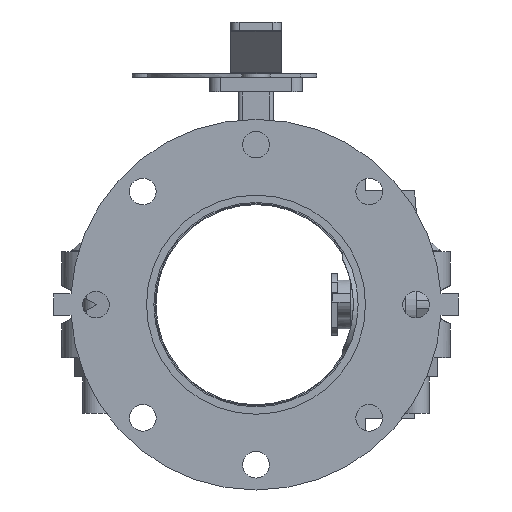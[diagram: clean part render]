
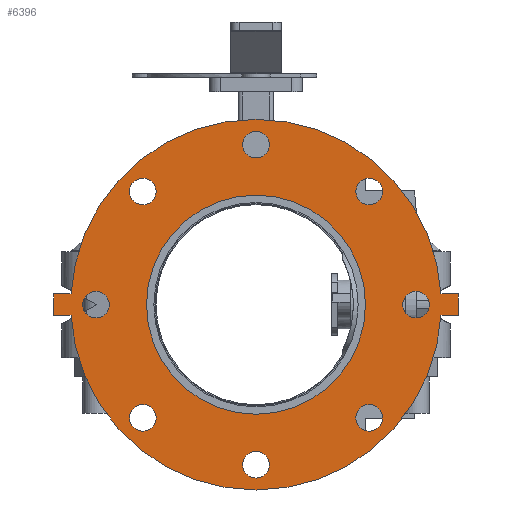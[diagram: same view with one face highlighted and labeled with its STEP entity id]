
A CAD part, front view. The second image highlights one B-rep face of the part: STEP entity #6396.
In plain terms, the highlighted planar face has unit normal (0, -1, 0) as drawn and (0, 0, -1) by its records, which use the part's own axes.
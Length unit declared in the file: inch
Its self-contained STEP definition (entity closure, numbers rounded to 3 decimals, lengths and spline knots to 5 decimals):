
#146=FACE_BOUND('',#793,.T.);
#147=FACE_BOUND('',#794,.T.);
#148=FACE_BOUND('',#795,.T.);
#149=FACE_BOUND('',#796,.T.);
#150=FACE_BOUND('',#797,.T.);
#151=FACE_BOUND('',#798,.T.);
#152=FACE_BOUND('',#799,.T.);
#153=FACE_BOUND('',#800,.T.);
#154=FACE_BOUND('',#801,.T.);
#225=PLANE('',#6918);
#437=FACE_OUTER_BOUND('',#792,.T.);
#792=EDGE_LOOP('',(#4161,#4162,#4163,#4164,#4165,#4166,#4167,#4168));
#793=EDGE_LOOP('',(#4169));
#794=EDGE_LOOP('',(#4170));
#795=EDGE_LOOP('',(#4171));
#796=EDGE_LOOP('',(#4172));
#797=EDGE_LOOP('',(#4173));
#798=EDGE_LOOP('',(#4174));
#799=EDGE_LOOP('',(#4175));
#800=EDGE_LOOP('',(#4176));
#801=EDGE_LOOP('',(#4177));
#1205=LINE('',#9653,#1710);
#1208=LINE('',#9659,#1713);
#1211=LINE('',#9664,#1716);
#1213=LINE('',#9669,#1718);
#1217=LINE('',#9676,#1722);
#1219=LINE('',#9679,#1724);
#1710=VECTOR('',#7693,0.3937);
#1713=VECTOR('',#7698,0.3937);
#1716=VECTOR('',#7703,0.3937);
#1718=VECTOR('',#7707,0.3937);
#1722=VECTOR('',#7713,0.3937);
#1724=VECTOR('',#7717,0.3937);
#2203=CIRCLE('',#6880,0.395);
#2205=CIRCLE('',#6883,0.395);
#2207=CIRCLE('',#6886,0.395);
#2209=CIRCLE('',#6889,0.395);
#2211=CIRCLE('',#6892,0.395);
#2213=CIRCLE('',#6895,0.395);
#2215=CIRCLE('',#6898,0.395);
#2217=CIRCLE('',#6901,0.395);
#2218=CIRCLE('',#6903,3.25);
#2220=CIRCLE('',#6906,5.5);
#2223=CIRCLE('',#6910,5.5);
#2554=VERTEX_POINT('',#9582);
#2556=VERTEX_POINT('',#9588);
#2558=VERTEX_POINT('',#9594);
#2560=VERTEX_POINT('',#9600);
#2562=VERTEX_POINT('',#9606);
#2564=VERTEX_POINT('',#9612);
#2566=VERTEX_POINT('',#9618);
#2568=VERTEX_POINT('',#9624);
#2569=VERTEX_POINT('',#9628);
#2571=VERTEX_POINT('',#9634);
#2573=VERTEX_POINT('',#9637);
#2575=VERTEX_POINT('',#9643);
#2578=VERTEX_POINT('',#9648);
#2579=VERTEX_POINT('',#9652);
#2581=VERTEX_POINT('',#9658);
#2583=VERTEX_POINT('',#9667);
#2584=VERTEX_POINT('',#9668);
#3166=EDGE_CURVE('',#2554,#2554,#2203,.T.);
#3169=EDGE_CURVE('',#2556,#2556,#2205,.T.);
#3172=EDGE_CURVE('',#2558,#2558,#2207,.T.);
#3175=EDGE_CURVE('',#2560,#2560,#2209,.T.);
#3178=EDGE_CURVE('',#2562,#2562,#2211,.T.);
#3181=EDGE_CURVE('',#2564,#2564,#2213,.T.);
#3184=EDGE_CURVE('',#2566,#2566,#2215,.T.);
#3187=EDGE_CURVE('',#2568,#2568,#2217,.T.);
#3188=EDGE_CURVE('',#2569,#2569,#2218,.T.);
#3192=EDGE_CURVE('',#2571,#2573,#2220,.T.);
#3198=EDGE_CURVE('',#2578,#2575,#2223,.T.);
#3199=EDGE_CURVE('',#2573,#2579,#1205,.T.);
#3202=EDGE_CURVE('',#2581,#2578,#1208,.T.);
#3205=EDGE_CURVE('',#2579,#2581,#1211,.T.);
#3207=EDGE_CURVE('',#2583,#2584,#1213,.T.);
#3211=EDGE_CURVE('',#2575,#2583,#1217,.T.);
#3213=EDGE_CURVE('',#2584,#2571,#1219,.T.);
#4161=ORIENTED_EDGE('',*,*,#3213,.F.);
#4162=ORIENTED_EDGE('',*,*,#3207,.F.);
#4163=ORIENTED_EDGE('',*,*,#3211,.F.);
#4164=ORIENTED_EDGE('',*,*,#3198,.F.);
#4165=ORIENTED_EDGE('',*,*,#3202,.F.);
#4166=ORIENTED_EDGE('',*,*,#3205,.F.);
#4167=ORIENTED_EDGE('',*,*,#3199,.F.);
#4168=ORIENTED_EDGE('',*,*,#3192,.F.);
#4169=ORIENTED_EDGE('',*,*,#3166,.T.);
#4170=ORIENTED_EDGE('',*,*,#3169,.T.);
#4171=ORIENTED_EDGE('',*,*,#3172,.T.);
#4172=ORIENTED_EDGE('',*,*,#3175,.T.);
#4173=ORIENTED_EDGE('',*,*,#3178,.T.);
#4174=ORIENTED_EDGE('',*,*,#3181,.T.);
#4175=ORIENTED_EDGE('',*,*,#3184,.T.);
#4176=ORIENTED_EDGE('',*,*,#3187,.T.);
#4177=ORIENTED_EDGE('',*,*,#3188,.T.);
#6396=ADVANCED_FACE('',(#437,#146,#147,#148,#149,#150,#151,#152,#153,#154),
#225,.F.);
#6880=AXIS2_PLACEMENT_3D('',#9584,#7617,#7618);
#6883=AXIS2_PLACEMENT_3D('',#9590,#7624,#7625);
#6886=AXIS2_PLACEMENT_3D('',#9596,#7631,#7632);
#6889=AXIS2_PLACEMENT_3D('',#9602,#7638,#7639);
#6892=AXIS2_PLACEMENT_3D('',#9608,#7645,#7646);
#6895=AXIS2_PLACEMENT_3D('',#9614,#7652,#7653);
#6898=AXIS2_PLACEMENT_3D('',#9620,#7659,#7660);
#6901=AXIS2_PLACEMENT_3D('',#9626,#7666,#7667);
#6903=AXIS2_PLACEMENT_3D('',#9629,#7670,#7671);
#6906=AXIS2_PLACEMENT_3D('',#9638,#7678,#7679);
#6910=AXIS2_PLACEMENT_3D('',#9650,#7689,#7690);
#6918=AXIS2_PLACEMENT_3D('',#9682,#7721,#7722);
#7617=DIRECTION('center_axis',(0.,0.,1.));
#7618=DIRECTION('ref_axis',(-0.707,-0.707,0.));
#7624=DIRECTION('center_axis',(0.,0.,1.));
#7625=DIRECTION('ref_axis',(-1.,0.,0.));
#7631=DIRECTION('center_axis',(0.,0.,1.));
#7632=DIRECTION('ref_axis',(-0.707,0.707,0.));
#7638=DIRECTION('center_axis',(0.,0.,1.));
#7639=DIRECTION('ref_axis',(0.,1.,0.));
#7645=DIRECTION('center_axis',(0.,0.,1.));
#7646=DIRECTION('ref_axis',(0.707,0.707,0.));
#7652=DIRECTION('center_axis',(0.,0.,1.));
#7653=DIRECTION('ref_axis',(1.,0.,0.));
#7659=DIRECTION('center_axis',(0.,0.,1.));
#7660=DIRECTION('ref_axis',(0.707,-0.707,0.));
#7666=DIRECTION('center_axis',(0.,0.,1.));
#7667=DIRECTION('ref_axis',(0.,-1.,0.));
#7670=DIRECTION('center_axis',(0.,0.,1.));
#7671=DIRECTION('ref_axis',(0.,-1.,0.));
#7678=DIRECTION('center_axis',(0.,0.,1.));
#7679=DIRECTION('ref_axis',(0.,1.,0.));
#7689=DIRECTION('center_axis',(0.,0.,1.));
#7690=DIRECTION('ref_axis',(0.,1.,0.));
#7693=DIRECTION('',(0.,-1.,0.));
#7698=DIRECTION('',(0.,1.,0.));
#7703=DIRECTION('',(1.,0.,0.));
#7707=DIRECTION('',(-1.,0.,0.));
#7713=DIRECTION('',(0.,1.,0.));
#7717=DIRECTION('',(0.,-1.,0.));
#7721=DIRECTION('center_axis',(0.,0.,1.));
#7722=DIRECTION('ref_axis',(0.,1.,0.));
#9582=CARTESIAN_POINT('',(-3.07945,3.63806,0.));
#9584=CARTESIAN_POINT('Origin',(-3.35876,3.35876,0.));
#9588=CARTESIAN_POINT('',(0.395,4.75,0.));
#9590=CARTESIAN_POINT('Origin',(0.,4.75,0.));
#9594=CARTESIAN_POINT('',(3.63806,3.07945,0.));
#9596=CARTESIAN_POINT('Origin',(3.35876,3.35876,0.));
#9600=CARTESIAN_POINT('',(4.75,-0.395,0.));
#9602=CARTESIAN_POINT('Origin',(4.75,0.,0.));
#9606=CARTESIAN_POINT('',(3.07945,-3.63806,0.));
#9608=CARTESIAN_POINT('Origin',(3.35876,-3.35876,0.));
#9612=CARTESIAN_POINT('',(-0.395,-4.75,0.));
#9614=CARTESIAN_POINT('Origin',(0.,-4.75,0.));
#9618=CARTESIAN_POINT('',(-3.63806,-3.07945,0.));
#9620=CARTESIAN_POINT('Origin',(-3.35876,-3.35876,0.));
#9624=CARTESIAN_POINT('',(-4.75,0.395,0.));
#9626=CARTESIAN_POINT('Origin',(-4.75,0.,0.));
#9628=CARTESIAN_POINT('',(0.,3.25,0.));
#9629=CARTESIAN_POINT('Origin',(0.,0.,0.));
#9634=CARTESIAN_POINT('',(-0.32,5.49068,0.));
#9637=CARTESIAN_POINT('',(-0.32,-5.49068,0.));
#9638=CARTESIAN_POINT('Origin',(0.,0.,0.));
#9643=CARTESIAN_POINT('',(0.32,5.49068,0.));
#9648=CARTESIAN_POINT('',(0.32,-5.49068,0.));
#9650=CARTESIAN_POINT('Origin',(0.,0.,0.));
#9652=CARTESIAN_POINT('',(-0.32,-6.,0.));
#9653=CARTESIAN_POINT('',(-0.32,-5.49068,0.));
#9658=CARTESIAN_POINT('',(0.32,-6.,0.));
#9659=CARTESIAN_POINT('',(0.32,-6.,0.));
#9664=CARTESIAN_POINT('',(-0.32,-6.,0.));
#9667=CARTESIAN_POINT('',(0.32,6.,0.));
#9668=CARTESIAN_POINT('',(-0.32,6.,0.));
#9669=CARTESIAN_POINT('',(0.32,6.,0.));
#9676=CARTESIAN_POINT('',(0.32,5.49068,0.));
#9679=CARTESIAN_POINT('',(-0.32,6.,0.));
#9682=CARTESIAN_POINT('Origin',(0.,5.76575,0.));
